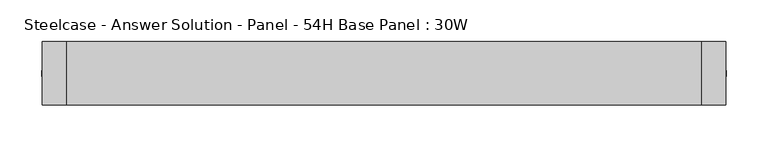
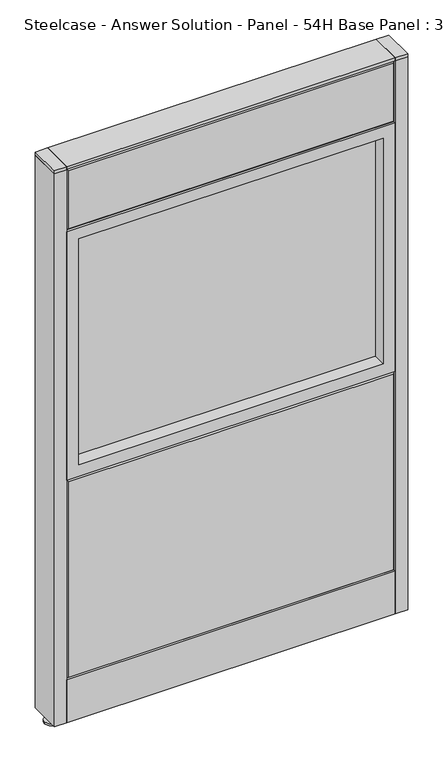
"""IFC4 building model written with IfcOpenShell, lengths in millimetres: furniture geometry, Steelcase - Answer Solution - Panel - 54H Base Panel : 30W."""

import ifcopenshell
import ifcopenshell.guid

model = None  # the IFC model being written
_history = None  # IfcOwnerHistory: only IFC2X3 demands one
_inside = {}  # id of a spatial element -> (the spatial element, [elements in it])
_under = {}  # id of a project, library or spatial element -> (it, [spatial elements below it])
_declared = {}  # id of a project -> (the project, [libraries it declares])
_typed = {}  # id of a type object -> (the type object, [elements of that type])
_made_of = {}  # id of a material, layer set ... -> (it, [elements and type objects made of it])


def new_model(schema):
    """Start an empty IFC model of exactly this schema.

    Asked for "IFC4X3", IfcOpenShell would pick the latest addendum, in which some entities
    have other attributes; the version numbers below select the first issue.
    IFC2X3 requires an IfcOwnerHistory on every rooted entity: one is made here for all.
    """
    global model, _history
    if schema == "IFC4X3":
        model = ifcopenshell.file(schema_version=(4, 3, 0, 0))
    else:
        model = ifcopenshell.file(schema=schema)
    _inside.clear()
    _under.clear()
    _declared.clear()
    _typed.clear()
    _made_of.clear()
    _history = None
    if model.schema == "IFC2X3":
        org = make("IfcOrganization", Name="unknown")
        user = make(
            "IfcPersonAndOrganization",
            ThePerson=make("IfcPerson", FamilyName="unknown"),
            TheOrganization=org,
        )
        app = make(
            "IfcApplication",
            ApplicationDeveloper=org,
            Version="unknown",
            ApplicationFullName="unknown",
            ApplicationIdentifier="unknown",
        )
        _history = make(
            "IfcOwnerHistory",
            OwningUser=user,
            OwningApplication=app,
            ChangeAction="ADDED",
            CreationDate=0,
        )
    return model


def make(cls, **values):
    """One entity of the class cls with the attributes given. An attribute that is None is left unset."""
    return model.create_entity(
        cls, **{name: value for name, value in values.items() if value is not None}
    )


def rooted(cls, **values):
    """An entity with a GlobalId (a new one), such as an element, a storey or a relation."""
    return make(cls, GlobalId=ifcopenshell.guid.new(), OwnerHistory=_history, **values)


def si_unit(unit_type, name, prefix=None):
    """IfcSIUnit, for example si_unit("LENGTHUNIT", "METRE", prefix="MILLI")."""
    return make("IfcSIUnit", UnitType=unit_type, Prefix=prefix, Name=name)


def assignment(units):
    """IfcUnitAssignment: the units of a project."""
    return None if units is None else make("IfcUnitAssignment", Units=units)


def point(xyz):
    """IfcCartesianPoint."""
    return None if xyz is None else make("IfcCartesianPoint", Coordinates=xyz)


def direction(xyz):
    """IfcDirection."""
    return None if xyz is None else make("IfcDirection", DirectionRatios=xyz)


def frame(location, z_axis=None, x_axis=None):
    """IfcAxis2Placement3D, a coordinate frame: its origin and axes. An axis left out is left unset."""
    return make(
        "IfcAxis2Placement3D",
        Location=point(location),
        Axis=direction(z_axis),
        RefDirection=direction(x_axis),
    )


def frame_2d(location, x_axis=None):
    """IfcAxis2Placement2D, a coordinate frame in the plane: its origin and x axis."""
    return make(
        "IfcAxis2Placement2D", Location=point(location), RefDirection=direction(x_axis)
    )


def origin():
    """The frame at (0, 0, 0) with its axes left unset."""
    return frame((0.0, 0.0, 0.0))


def place(relative_to, where):
    """IfcLocalPlacement: puts the frame where relative to a parent placement (None: the world)."""
    return make(
        "IfcLocalPlacement", PlacementRelTo=relative_to, RelativePlacement=where
    )


def context(
    kind, dimensions, precision=None, world=None, true_north=None, identifier=None
):
    """IfcGeometricRepresentationContext, for example the 3D "Model" context."""
    return make(
        "IfcGeometricRepresentationContext",
        ContextIdentifier=identifier,
        ContextType=kind,
        CoordinateSpaceDimension=dimensions,
        Precision=precision,
        WorldCoordinateSystem=world,
        TrueNorth=true_north,
    )


def project(units=None, contexts=None):
    """IfcProject with its units and contexts."""
    return rooted(
        "IfcProject",
        Name="project",
        RepresentationContexts=contexts,
        UnitsInContext=assignment(units),
    )


def spatial(cls, under=None, at=None, **own):
    """A site, building, storey or space (cls), placed at a placement, below another one or the project."""
    s = rooted(cls, ObjectPlacement=at, **own)
    if under is not None:
        _under.setdefault(under.id(), (under, []))[1].append(s)
    return s


def polyline(points):
    """IfcPolyline through the points."""
    return make("IfcPolyline", Points=[point(p) for p in points])


def circle_curve(where, radius):
    """IfcCircle in the frame where."""
    return make("IfcCircle", Position=where, Radius=radius)


def trimmed(basis, trim1, trim2, sense, master):
    """IfcTrimmedCurve: the piece of a basis curve between two trims."""
    return make(
        "IfcTrimmedCurve",
        BasisCurve=basis,
        Trim1=trim1,
        Trim2=trim2,
        SenseAgreement=sense,
        MasterRepresentation=master,
    )


def segment(curve, same_sense, transition):
    """IfcCompositeCurveSegment."""
    return make(
        "IfcCompositeCurveSegment",
        Transition=transition,
        SameSense=same_sense,
        ParentCurve=curve,
    )


def composite_curve(segments, self_intersect=None):
    """IfcCompositeCurve: segments joined end to end."""
    return make("IfcCompositeCurve", Segments=segments, SelfIntersect=self_intersect)


def outline(outer, holes=None, kind="AREA"):
    """IfcArbitraryClosedProfileDef: a profile drawn as a closed curve; with holes, ...WithVoids."""
    if holes is None:
        return make("IfcArbitraryClosedProfileDef", ProfileType=kind, OuterCurve=outer)
    return make(
        "IfcArbitraryProfileDefWithVoids",
        ProfileType=kind,
        OuterCurve=outer,
        InnerCurves=holes,
    )


def extrude(swept, where, along, depth):
    """IfcExtrudedAreaSolid: the profile swept, set in the frame where, extruded along a direction by depth."""
    return make(
        "IfcExtrudedAreaSolid",
        SweptArea=swept,
        Position=where,
        ExtrudedDirection=direction(along),
        Depth=depth,
    )


def faces_of(points, faces, orient=None, outer=None):
    """IfcFace entities. A face is a list of loops; a loop is a list of indices into points, from 0.

    orient and outer hold one flag for each loop. By default every Orientation is true, the
    first loop of a face is its IfcFaceOuterBound and the others are IfcFaceBound.
    """
    made = []
    for i, loops in enumerate(faces):
        bounds = []
        for j, loop in enumerate(loops):
            is_outer = j == 0 if outer is None else outer[i][j]
            bounds.append(
                make(
                    "IfcFaceOuterBound" if is_outer else "IfcFaceBound",
                    Bound=make("IfcPolyLoop", Polygon=[points[k] for k in loop]),
                    Orientation=True if orient is None else orient[i][j],
                )
            )
        made.append(make("IfcFace", Bounds=bounds))
    return made


def faceted_brep(points, faces, orient=None, outer=None, voids=None):
    """IfcFacetedBrep: a solid bounded by flat faces; with voids (closed shells), ...WithVoids."""
    shared = [point(p) for p in points]
    hull = make("IfcClosedShell", CfsFaces=faces_of(shared, faces, orient, outer))
    if voids is None:
        return make("IfcFacetedBrep", Outer=hull)
    return make(
        "IfcFacetedBrepWithVoids",
        Outer=hull,
        Voids=[
            make(cls, CfsFaces=faces_of(shared, fs, o, b)) for cls, fs, o, b in voids
        ],
    )


def shape(context_of_items, identifier, shape_type, items):
    """IfcShapeRepresentation: the items that make up one representation, for example the "Body"."""
    return make(
        "IfcShapeRepresentation",
        ContextOfItems=context_of_items,
        RepresentationIdentifier=identifier,
        RepresentationType=shape_type,
        Items=items,
    )


def source(mapping_origin, context_of_items, identifier, shape_type, items):
    """IfcRepresentationMap: a shape defined once, which mapped items show again and again."""
    return make(
        "IfcRepresentationMap",
        MappingOrigin=mapping_origin,
        MappedRepresentation=shape(context_of_items, identifier, shape_type, items),
    )


def transform(
    local_origin,
    x_axis=None,
    y_axis=None,
    z_axis=None,
    scale=None,
    scale2=None,
    scale3=None,
    uniform=True,
):
    """IfcCartesianTransformationOperator3D, or its non-uniform kind. x_axis, y_axis, z_axis: its Axis1, 2, 3."""
    if uniform:
        return make(
            "IfcCartesianTransformationOperator3D",
            Axis1=direction(x_axis),
            Axis2=direction(y_axis),
            LocalOrigin=point(local_origin),
            Scale=scale,
            Axis3=direction(z_axis),
        )
    return make(
        "IfcCartesianTransformationOperator3DnonUniform",
        Axis1=direction(x_axis),
        Axis2=direction(y_axis),
        LocalOrigin=point(local_origin),
        Scale=scale,
        Axis3=direction(z_axis),
        Scale2=scale2,
        Scale3=scale3,
    )


def mapped(mapping_source, mapping_target):
    """IfcMappedItem: shows the shape of a source again, moved by a transform."""
    return make(
        "IfcMappedItem", MappingSource=mapping_source, MappingTarget=mapping_target
    )


def made_of(thing, what):
    """Note that an element or type object is made of a material, layer set ...; save() writes the relation."""
    if what is not None:
        _made_of.setdefault(what.id(), (what, []))[1].append(thing)
    return thing


def element(
    cls,
    number,
    at=None,
    inside=None,
    cuts=None,
    type_object=None,
    material=None,
    context=None,
    identifier="Body",
    shape_type=None,
    held_by="IfcProductDefinitionShape",
    body=None,
    shapes=None,
    **own,
):
    """One element of the class cls, such as IfcWall. Its Tag is "e" and its number.

    at: its placement. inside: the storey or other place that contains it. cuts: it is an
    opening in that element (IfcRelVoidsElement). A single representation is given by context,
    identifier, shape_type and body (its items); several are given by shapes. held_by: the class
    of the entity that holds the representations. save() writes the other relations.
    """
    e = rooted(cls, Tag="e%d" % number, ObjectPlacement=at, **own)
    if body is not None:
        shapes = [shape(context, identifier, shape_type, body)]
    if shapes is not None:
        e.Representation = make(held_by, Representations=shapes)
    if inside is not None:
        _inside.setdefault(inside.id(), (inside, []))[1].append(e)
    if cuts is not None:
        rooted(
            "IfcRelVoidsElement", RelatingBuildingElement=cuts, RelatedOpeningElement=e
        )
    if type_object is not None:
        _typed.setdefault(type_object.id(), (type_object, []))[1].append(e)
    return made_of(e, material)


def aggregate(whole, parts):
    """IfcRelAggregates: a whole, such as a stair, and the parts it consists of."""
    return rooted("IfcRelAggregates", RelatingObject=whole, RelatedObjects=parts)


def save(model, path):
    """Write the relations noted so far, then the file.

    IfcRelAggregates (storeys below a building ...), IfcRelContainedInSpatialStructure (elements
    in a storey), IfcRelDefinesByType, IfcRelAssociatesMaterial and IfcRelDeclares: one each for
    every whole, place, type object, material and project.
    """
    for whole, parts in _under.values():
        aggregate(whole, parts)
    for where, things in _inside.values():
        rooted(
            "IfcRelContainedInSpatialStructure",
            RelatedElements=things,
            RelatingStructure=where,
        )
    for kind, things in _typed.values():
        rooted("IfcRelDefinesByType", RelatedObjects=things, RelatingType=kind)
    for what, things in _made_of.values():
        rooted("IfcRelAssociatesMaterial", RelatedObjects=things, RelatingMaterial=what)
    for by, libraries in _declared.values():
        rooted("IfcRelDeclares", RelatingContext=by, RelatedDefinitions=libraries)
    model.write(path)


def steelcase_answer_solution_panel_54h_base_panel_30w_d9dc1161(model_context):
    return source(origin(), model_context, "Body", "SolidModel", [
        extrude(outline(composite_curve([segment(trimmed(circle_curve(frame_2d((395.224, 0.0320214)), 5.08), [point((400.304, 0.0320214))], [point((390.144, 0.0320214))], False, "CARTESIAN"), True, "CONTINUOUS"), segment(trimmed(circle_curve(frame_2d((395.224, 0.0320214)), 5.08), [point((390.144, 0.0320214))], [point((400.304, 0.0320214))], False, "CARTESIAN"), True, "CONTINUOUS")], self_intersect=False)), frame((0.0, 0.0, 5.0799671), z_axis=(0.0, 0.0, 1.0), x_axis=(1.0, 0.0, 0.0)), (0.0, 0.0, 1.0), 10.414),
        extrude(outline(composite_curve([segment(trimmed(circle_curve(frame_2d((395.224, 0.0320214)), 15.24), [point((410.464, 0.0320214))], [point((379.984, 0.0320214))], False, "CARTESIAN"), True, "CONTINUOUS"), segment(trimmed(circle_curve(frame_2d((395.224, 0.0320214)), 15.24), [point((379.984, 0.0320214))], [point((410.464, 0.0320214))], False, "CARTESIAN"), True, "CONTINUOUS")], self_intersect=False)), frame((0.0, 0.0, -3.29e-05), z_axis=(0.0, 0.0, 1.0), x_axis=(1.0, 0.0, 0.0)), (0.0, 0.0, 1.0), 5.08),
        extrude(outline(polyline([(409.575, 38.1320408), (409.575, -38.0679592), (381.0, -38.0679592), (381.0, 38.1320408), (409.575, 38.1320408)])), frame((0.0, 0.0, 1370.6348), z_axis=(0.0, 0.0, 1.0), x_axis=(1.0, 0.0, 0.0)), (0.0, 0.0, 1.0), 7.3151671),
        extrude(outline(polyline([(409.575, 38.1320408), (409.575, -38.0679592), (381.0, -38.0679592), (381.0, 38.1320408), (409.575, 38.1320408)])), frame((0.0, 0.0, 15.4939671), z_axis=(0.0, 0.0, 1.0), x_axis=(1.0, 0.0, 0.0)), (0.0, 0.0, 1.0), 1355.1408329),
        extrude(outline(composite_curve([segment(trimmed(circle_curve(frame_2d((-395.224, 0.0320214)), 5.08), [point((-400.304, 0.0320214))], [point((-390.144, 0.0320214))], False, "CARTESIAN"), True, "CONTINUOUS"), segment(trimmed(circle_curve(frame_2d((-395.224, 0.0320214)), 5.08), [point((-390.144, 0.0320214))], [point((-400.304, 0.0320214))], False, "CARTESIAN"), True, "CONTINUOUS")], self_intersect=False)), frame((0.0, 0.0, 5.0799671), z_axis=(0.0, 0.0, 1.0), x_axis=(1.0, 0.0, 0.0)), (0.0, 0.0, 1.0), 10.414),
        extrude(outline(composite_curve([segment(trimmed(circle_curve(frame_2d((-395.224, 0.0320214)), 15.24), [point((-410.464, 0.0320214))], [point((-379.984, 0.0320214))], False, "CARTESIAN"), True, "CONTINUOUS"), segment(trimmed(circle_curve(frame_2d((-395.224, 0.0320214)), 15.24), [point((-379.984, 0.0320214))], [point((-410.464, 0.0320214))], False, "CARTESIAN"), True, "CONTINUOUS")], self_intersect=False)), frame((0.0, 0.0, -3.29e-05), z_axis=(0.0, 0.0, 1.0), x_axis=(1.0, 0.0, 0.0)), (0.0, 0.0, 1.0), 5.08),
        extrude(outline(polyline([(-409.575, 38.1320408), (-381.0, 38.1320408), (-381.0, -38.0679592), (-409.575, -38.0679592), (-409.575, 38.1320408)])), frame((0.0, 0.0, 1370.6348), z_axis=(0.0, 0.0, 1.0), x_axis=(1.0, 0.0, 0.0)), (0.0, 0.0, 1.0), 7.3151671),
        extrude(outline(polyline([(-409.575, 38.1320408), (-381.0, 38.1320408), (-381.0, -38.0679592), (-409.575, -38.0679592), (-409.575, 38.1320408)])), frame((0.0, 0.0, 15.4939671), z_axis=(0.0, 0.0, 1.0), x_axis=(1.0, 0.0, 0.0)), (0.0, 0.0, 1.0), 1355.1408329),
        extrude(outline(polyline([(-353.06, 6.346049), (353.06, 6.346049), (353.06, -6.353951), (-353.06, -6.353951), (-353.06, 6.346049)])), frame((0.0, 0.0, 637.54), z_axis=(0.0, 0.0, 1.0), x_axis=(1.0, 0.0, 0.0)), (0.0, 0.0, 1.0), 553.72),
        extrude(outline(polyline([(1219.2, -381.0), (609.6, -381.0), (609.6, 381.0), (1219.2, 381.0), (1219.2, -381.0)]), holes=[polyline([(1191.26, -353.06), (1191.26, 353.06), (637.54, 353.06), (637.54, -353.06), (1191.26, -353.06)])]), frame((0.0, -38.103951, 0.0), z_axis=(0.0, 1.0, 0.0), x_axis=(0.0, 0.0, 1.0)), (0.0, 0.0, 1.0), 76.2),
        faceted_brep([(-376.174, 38.1635011, 1366.774), (376.174, 38.1635011, 1366.774), (376.174, 38.1635011, 1224.026), (-376.174, 38.1635011, 1224.026), (-381.0, 33.3375011, 1371.6), (-381.0, 33.3375011, 1219.2), (381.0, 33.3375011, 1219.2), (381.0, 33.3375011, 1371.6)], [[[0, 1, 2, 3]], [[4, 5, 6, 7]], [[4, 7, 1, 0]], [[7, 6, 2, 1]], [[6, 5, 3, 2]], [[5, 4, 0, 3]]]),
        faceted_brep([(-376.174, 38.1635011, 604.774), (376.174, 38.1635011, 604.774), (376.174, 38.1635011, 125.476), (-376.174, 38.1635011, 125.476), (-381.0, 33.3375011, 609.6), (-381.0, 33.3375011, 120.65), (381.0, 33.3375011, 120.65), (381.0, 33.3375011, 609.6)], [[[0, 1, 2, 3]], [[4, 5, 6, 7]], [[4, 7, 1, 0]], [[7, 6, 2, 1]], [[6, 5, 3, 2]], [[5, 4, 0, 3]]]),
        extrude(outline(polyline([(353.06, -6.346049), (-353.06, -6.346049), (-353.06, 6.353951), (353.06, 6.353951), (353.06, -6.346049)])), frame((0.0, 0.0, 637.54), z_axis=(0.0, 0.0, 1.0), x_axis=(1.0, 0.0, 0.0)), (0.0, 0.0, 1.0), 553.72),
        extrude(outline(polyline([(1219.2, 381.0), (1219.2, -381.0), (609.6, -381.0), (609.6, 381.0), (1219.2, 381.0)]), holes=[polyline([(1191.26, 353.06), (637.54, 353.06), (637.54, -353.06), (1191.26, -353.06), (1191.26, 353.06)])]), frame((0.0, -38.096049, 0.0), z_axis=(0.0, 1.0, 0.0), x_axis=(0.0, 0.0, 1.0)), (0.0, 0.0, 1.0), 76.2),
        faceted_brep([(376.174, -38.1635011, 1366.774), (-376.174, -38.1635011, 1366.774), (-376.174, -38.1635011, 1224.026), (376.174, -38.1635011, 1224.026), (381.0, -33.3375011, 1371.6), (381.0, -33.3375011, 1219.2), (-381.0, -33.3375011, 1219.2), (-381.0, -33.3375011, 1371.6)], [[[0, 1, 2, 3]], [[4, 5, 6, 7]], [[4, 7, 1, 0]], [[7, 6, 2, 1]], [[6, 5, 3, 2]], [[5, 4, 0, 3]]]),
        faceted_brep([(376.174, -38.1635011, 604.774), (-376.174, -38.1635011, 604.774), (-376.174, -38.1635011, 125.476), (376.174, -38.1635011, 125.476), (381.0, -33.3375011, 609.6), (381.0, -33.3375011, 120.65), (-381.0, -33.3375011, 120.65), (-381.0, -33.3375011, 609.6)], [[[0, 1, 2, 3]], [[4, 5, 6, 7]], [[4, 7, 1, 0]], [[7, 6, 2, 1]], [[6, 5, 3, 2]], [[5, 4, 0, 3]]]),
        extrude(outline(polyline([(381.0, 38.1000194), (381.0, -38.1000194), (-381.0, -38.1000194), (-381.0, 38.1000194), (381.0, 38.1000194)])), frame((0.0, 0.0, 1371.6), z_axis=(0.0, 0.0, 1.0), x_axis=(1.0, 0.0, 0.0)), (0.0, 0.0, 1.0), 6.35),
        extrude(outline(polyline([(25.4000011, 119.8575157), (25.4000011, 120.65), (38.1000194, 120.65), (38.1000194, 15.494), (37.3075215, 15.494), (37.3075215, 119.8575157), (25.4000011, 119.8575157)])), frame((-381.0, 0.0, 0.0), z_axis=(1.0, 0.0, 0.0), x_axis=(0.0, 1.0, 0.0)), (0.0, 0.0, 1.0), 762.0),
        extrude(outline(polyline([(-25.4000011, 119.8575157), (-37.3075215, 119.8575157), (-37.3075215, 15.494), (-38.1000194, 15.494), (-38.1000194, 120.65), (-25.4000011, 120.65), (-25.4000011, 119.8575157)])), frame((-381.0, 0.0, 0.0), z_axis=(1.0, 0.0, 0.0), x_axis=(0.0, 1.0, 0.0)), (0.0, 0.0, 1.0), 762.0),
    ])


if __name__ == "__main__":
    model = new_model("IFC4")
    model_context = context("Model", 3, world=origin())
    ifc_project = project(units=[si_unit("LENGTHUNIT", "METRE", prefix="MILLI")], contexts=[model_context])
    site = spatial("IfcSite", under=ifc_project)
    building = spatial("IfcBuilding", under=site)
    placement = place(None, origin())
    steelcase_answer_solution_panel_54h_base_panel_30w_shape = steelcase_answer_solution_panel_54h_base_panel_30w_d9dc1161(model_context)
    element("IfcFurniture", 1, ObjectType="Steelcase - Answer Solution - Panel - 54H Base Panel : 30W", at=placement, inside=building, context=model_context, shape_type="MappedRepresentation", body=[
        mapped(steelcase_answer_solution_panel_54h_base_panel_30w_shape, transform((0.0, 0.0, 0.0), x_axis=(1.0, 0.0, 0.0), y_axis=(0.0, 1.0, 0.0), z_axis=(0.0, 0.0, 1.0))),
    ])
    save(model, "model.ifc")
